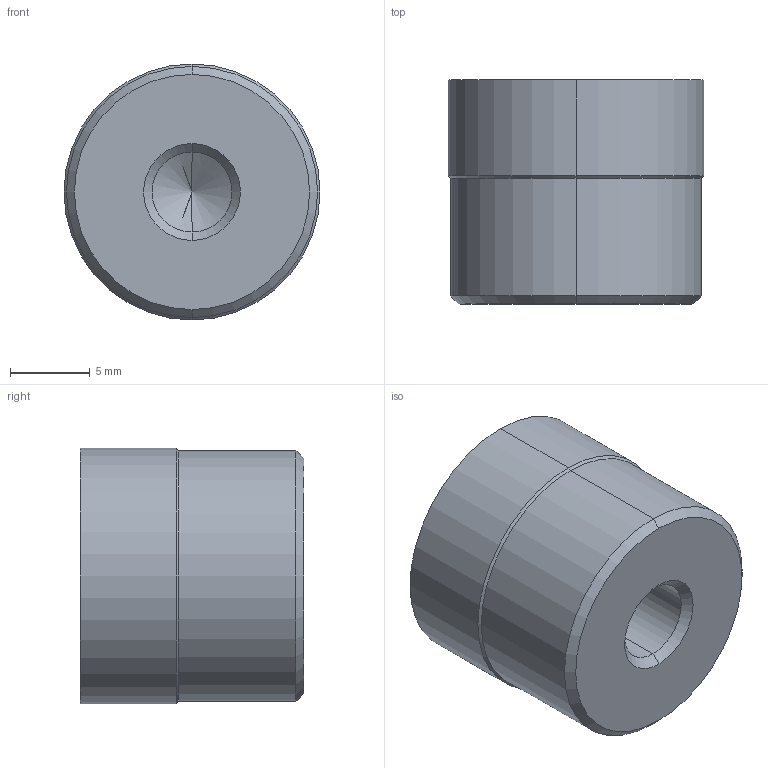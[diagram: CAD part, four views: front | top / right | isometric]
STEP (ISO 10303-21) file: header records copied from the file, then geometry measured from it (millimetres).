
FILE_DESCRIPTION (( 'STEP AP203' ), '1' );
FILE_NAME ('IR-16 PE-HD.STEP', '2017-09-11T14:20:14', ( 'Balzi' ), ( '' ), 'SwSTEP 2.0', 'SolidWorks 2017', '' );
FILE_SCHEMA (( 'CONFIG_CONTROL_DESIGN' ));
Length unit declared in the file: millimetre
Products named in the file (1): IR-16 PE-HD
Bounding box: 16 x 14 x 16 mm (x, y, z)
Volume: 2522.2 mm3; surface area: 1276.5 mm2
Topology: 1 solids, 1 shells, 244 faces, 677 edges, 447 vertices
Faces by surface type: plane 216, cylinder 20, cone 8
Entity records: 7728 total; most frequent: CARTESIAN_POINT 1367, ORIENTED_EDGE 1350, DIRECTION 1209, EDGE_CURVE 675, LINE 631, VECTOR 631, VERTEX_POINT 447, AXIS2_PLACEMENT_3D 289
